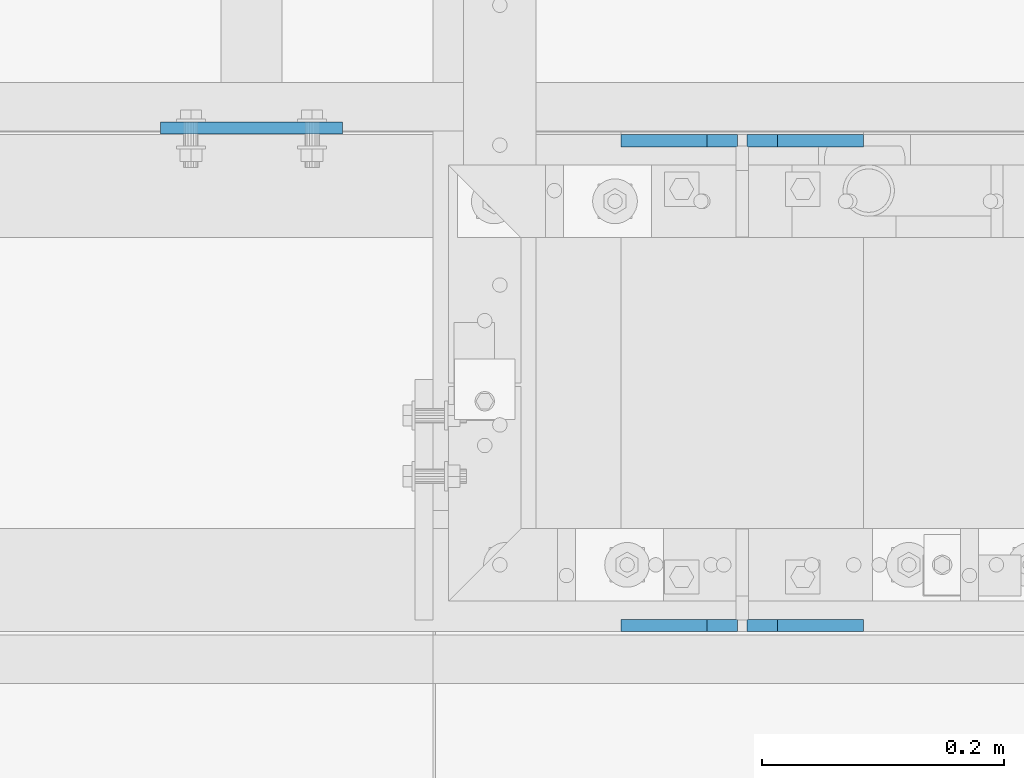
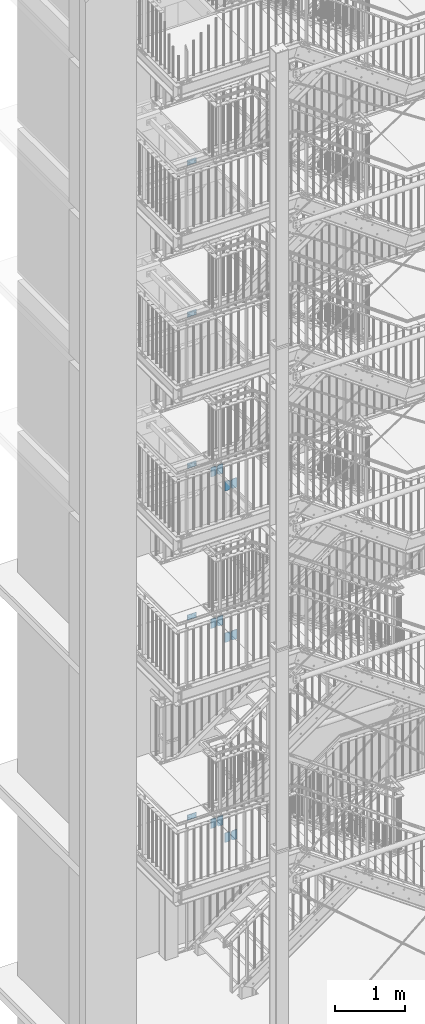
# One storey, part 162 of 831: 17 plates, 44 openings.
"""IFC2X3 building model written with IfcOpenShell, lengths in millimetres."""

from ifc_helpers import new_model, entity, si_unit, converted_unit, frame, frame_2d, origin, origin_with_axes, origin_2d_with_axis, place, context, project, spatial, polyline, circle, outline, extrude, material, layer, layer_set, element, save


model = new_model("IFC2X3")

# Units and contexts
model_context = context("Model", 3, precision=1e-09, world=origin_with_axes())
ifc_project = project(units=[si_unit("LENGTHUNIT", "METRE", prefix="MILLI"), si_unit("AREAUNIT", "SQUARE_METRE"), si_unit("VOLUMEUNIT", "CUBIC_METRE"), converted_unit("PLANEANGLEUNIT", "DEGREE", entity("IfcPlaneAngleMeasure", 0.01745329), si_unit("PLANEANGLEUNIT", "RADIAN"), dimensions=[0, 0, 0, 0, 0, 0, 0])], contexts=[model_context])

# Site, building, storey
site_placement = place(None, origin_with_axes())
site = spatial("IfcSite", under=ifc_project, at=site_placement, Name="Site", CompositionType="ELEMENT")
building_placement = place(site_placement, origin_with_axes())
building = spatial("IfcBuilding", under=site, at=building_placement, Name="Struktur 1", CompositionType="ELEMENT")
storey_placement = place(building_placement, origin_with_axes())
storey = spatial("IfcBuildingStorey", under=building, at=storey_placement, Name="Default Storey", CompositionType="ELEMENT", Elevation=0.0)

# Plate, openings
ifc_material = material(Name="S235JR")
ifc_layer = layer(ifc_material, 10.0)
ifc_layer_set = layer_set([ifc_layer], Name="S235JR")
plate_1_placement = place(None, frame((4852.713402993, 6136.736971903, 3428.5), z_axis=(0.0, 1.0, 0.0), x_axis=(-1.0, 0.0, 0.0)))
plate_1 = element("IfcPlate", 1, at=plate_1_placement, inside=storey, material=ifc_layer_set, Name="Stiffener#1", ObjectType="Stiffener#1", context=model_context, shape_type="SweptSolid", body=[
    extrude(outline(polyline([(0.0, 0.0), (96.0, 0.0), (96.0, 167.0), (0.0, 167.0), (0.0, 0.0)])), origin_with_axes(), (0.0, 0.0, 1.0), 10.0),
])
opening_1_placement = place(plate_1_placement, frame((0.0, 0.0, -0.01), z_axis=(0.0, 0.0, 1.0), x_axis=(1.0, 0.0, 0.0)))
element("IfcOpeningElement", 2, at=opening_1_placement, cuts=plate_1, ObjectType="Opening", context=model_context, shape_type="SweptSolid", body=[
    extrude(outline(polyline([(0.0, 167.0), (0.0, 142.0), (25.0, 167.0), (0.0, 167.0)])), origin(), (0.0, 0.0, 1.0), 10.02),
])
opening_2_placement = place(plate_1_placement, frame((0.0, 0.0, -0.01), z_axis=(0.0, 0.0, 1.0), x_axis=(1.0, 0.0, 0.0)))
element("IfcOpeningElement", 3, at=opening_2_placement, cuts=plate_1, ObjectType="Opening", context=model_context, shape_type="SweptSolid", body=[
    extrude(outline(polyline([(0.0, 0.0), (25.0, 0.0), (0.0, 25.0), (0.0, 0.0)])), origin(), (0.0, 0.0, 1.0), 10.02),
])

plate_2_placement = place(None, frame((4956.713402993, 6136.736971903, 3428.5), z_axis=(0.0, 1.0, 0.0), x_axis=(-1.0, 0.0, 0.0)))
plate_2 = element("IfcPlate", 4, at=plate_2_placement, inside=storey, material=ifc_layer_set, Name="Stiffener#0", ObjectType="Stiffener#0", context=model_context, shape_type="SweptSolid", body=[
    extrude(outline(polyline([(0.0, 0.0), (96.0, 0.0), (96.0, 167.0), (0.0, 167.0), (0.0, 0.0)])), origin_with_axes(), (0.0, 0.0, 1.0), 10.0),
])
opening_3_placement = place(plate_2_placement, frame((0.0, 0.0, -0.01), z_axis=(0.0, 0.0, 1.0), x_axis=(1.0, 0.0, 0.0)))
element("IfcOpeningElement", 5, at=opening_3_placement, cuts=plate_2, ObjectType="Opening", context=model_context, shape_type="SweptSolid", body=[
    extrude(outline(polyline([(96.0, 167.0), (71.0, 167.0), (96.0, 142.0), (96.0, 167.0)])), origin(), (0.0, 0.0, 1.0), 10.02),
])
opening_4_placement = place(plate_2_placement, frame((0.0, 0.0, -0.01), z_axis=(0.0, 0.0, 1.0), x_axis=(1.0, 0.0, 0.0)))
element("IfcOpeningElement", 6, at=opening_4_placement, cuts=plate_2, ObjectType="Opening", context=model_context, shape_type="SweptSolid", body=[
    extrude(outline(polyline([(96.0, 0.0), (96.0, 25.0), (71.0, 0.0), (96.0, 0.0)])), origin(), (0.0, 0.0, 1.0), 10.02),
])

plate_3_placement = place(None, frame((4852.713402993, 5736.736971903, 3428.5), z_axis=(0.0, 1.0, 0.0), x_axis=(-1.0, 0.0, 0.0)))
plate_3 = element("IfcPlate", 7, at=plate_3_placement, inside=storey, material=ifc_layer_set, Name="Stiffener#1", ObjectType="Stiffener#1", context=model_context, shape_type="SweptSolid", body=[
    extrude(outline(polyline([(0.0, 0.0), (96.0, 0.0), (96.0, 167.0), (0.0, 167.0), (0.0, 0.0)])), origin_with_axes(), (0.0, 0.0, 1.0), 10.0),
])
opening_5_placement = place(plate_3_placement, frame((0.0, 0.0, -0.01), z_axis=(0.0, 0.0, 1.0), x_axis=(1.0, 0.0, 0.0)))
element("IfcOpeningElement", 8, at=opening_5_placement, cuts=plate_3, ObjectType="Opening", context=model_context, shape_type="SweptSolid", body=[
    extrude(outline(polyline([(0.0, 167.0), (0.0, 142.0), (25.0, 167.0), (0.0, 167.0)])), origin(), (0.0, 0.0, 1.0), 10.02),
])
opening_6_placement = place(plate_3_placement, frame((0.0, 0.0, -0.01), z_axis=(0.0, 0.0, 1.0), x_axis=(1.0, 0.0, 0.0)))
element("IfcOpeningElement", 9, at=opening_6_placement, cuts=plate_3, ObjectType="Opening", context=model_context, shape_type="SweptSolid", body=[
    extrude(outline(polyline([(0.0, 0.0), (25.0, 0.0), (0.0, 25.0), (0.0, 0.0)])), origin(), (0.0, 0.0, 1.0), 10.02),
])

plate_4_placement = place(None, frame((4956.713402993, 5736.736971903, 3428.5), z_axis=(0.0, 1.0, 0.0), x_axis=(-1.0, 0.0, 0.0)))
plate_4 = element("IfcPlate", 10, at=plate_4_placement, inside=storey, material=ifc_layer_set, Name="Stiffener#0", ObjectType="Stiffener#0", context=model_context, shape_type="SweptSolid", body=[
    extrude(outline(polyline([(0.0, 0.0), (96.0, 0.0), (96.0, 167.0), (0.0, 167.0), (0.0, 0.0)])), origin_with_axes(), (0.0, 0.0, 1.0), 10.0),
])
opening_7_placement = place(plate_4_placement, frame((0.0, 0.0, -0.01), z_axis=(0.0, 0.0, 1.0), x_axis=(1.0, 0.0, 0.0)))
element("IfcOpeningElement", 11, at=opening_7_placement, cuts=plate_4, ObjectType="Opening", context=model_context, shape_type="SweptSolid", body=[
    extrude(outline(polyline([(96.0, 167.0), (71.0, 167.0), (96.0, 142.0), (96.0, 167.0)])), origin(), (0.0, 0.0, 1.0), 10.02),
])
opening_8_placement = place(plate_4_placement, frame((0.0, 0.0, -0.01), z_axis=(0.0, 0.0, 1.0), x_axis=(1.0, 0.0, 0.0)))
element("IfcOpeningElement", 12, at=opening_8_placement, cuts=plate_4, ObjectType="Opening", context=model_context, shape_type="SweptSolid", body=[
    extrude(outline(polyline([(96.0, 0.0), (96.0, 25.0), (71.0, 0.0), (96.0, 0.0)])), origin(), (0.0, 0.0, 1.0), 10.02),
])

plate_5_placement = place(None, frame((4852.713402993, 6136.736971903, 6901.5), z_axis=(0.0, 1.0, 0.0), x_axis=(-1.0, 0.0, 0.0)))
plate_5 = element("IfcPlate", 13, at=plate_5_placement, inside=storey, material=ifc_layer_set, Name="Stiffener#1", ObjectType="Stiffener#1", context=model_context, shape_type="SweptSolid", body=[
    extrude(outline(polyline([(0.0, 0.0), (96.0, 0.0), (96.0, 167.0), (0.0, 167.0), (0.0, 0.0)])), origin_with_axes(), (0.0, 0.0, 1.0), 10.0),
])
opening_9_placement = place(plate_5_placement, frame((0.0, 0.0, -0.01), z_axis=(0.0, 0.0, 1.0), x_axis=(1.0, 0.0, 0.0)))
element("IfcOpeningElement", 14, at=opening_9_placement, cuts=plate_5, ObjectType="Opening", context=model_context, shape_type="SweptSolid", body=[
    extrude(outline(polyline([(0.0, 167.0), (0.0, 142.0), (25.0, 167.0), (0.0, 167.0)])), origin(), (0.0, 0.0, 1.0), 10.02),
])
opening_10_placement = place(plate_5_placement, frame((0.0, 0.0, -0.01), z_axis=(0.0, 0.0, 1.0), x_axis=(1.0, 0.0, 0.0)))
element("IfcOpeningElement", 15, at=opening_10_placement, cuts=plate_5, ObjectType="Opening", context=model_context, shape_type="SweptSolid", body=[
    extrude(outline(polyline([(0.0, 0.0), (25.0, 0.0), (0.0, 25.0), (0.0, 0.0)])), origin(), (0.0, 0.0, 1.0), 10.02),
])

plate_6_placement = place(None, frame((4956.713402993, 6136.736971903, 6901.5), z_axis=(0.0, 1.0, 0.0), x_axis=(-1.0, 0.0, 0.0)))
plate_6 = element("IfcPlate", 16, at=plate_6_placement, inside=storey, material=ifc_layer_set, Name="Stiffener#0", ObjectType="Stiffener#0", context=model_context, shape_type="SweptSolid", body=[
    extrude(outline(polyline([(0.0, 0.0), (96.0, 0.0), (96.0, 167.0), (0.0, 167.0), (0.0, 0.0)])), origin_with_axes(), (0.0, 0.0, 1.0), 10.0),
])
opening_11_placement = place(plate_6_placement, frame((0.0, 0.0, -0.01), z_axis=(0.0, 0.0, 1.0), x_axis=(1.0, 0.0, 0.0)))
element("IfcOpeningElement", 17, at=opening_11_placement, cuts=plate_6, ObjectType="Opening", context=model_context, shape_type="SweptSolid", body=[
    extrude(outline(polyline([(96.0, 167.0), (71.0, 167.0), (96.0, 142.0), (96.0, 167.0)])), origin(), (0.0, 0.0, 1.0), 10.02),
])
opening_12_placement = place(plate_6_placement, frame((0.0, 0.0, -0.01), z_axis=(0.0, 0.0, 1.0), x_axis=(1.0, 0.0, 0.0)))
element("IfcOpeningElement", 18, at=opening_12_placement, cuts=plate_6, ObjectType="Opening", context=model_context, shape_type="SweptSolid", body=[
    extrude(outline(polyline([(96.0, 0.0), (96.0, 25.0), (71.0, 0.0), (96.0, 0.0)])), origin(), (0.0, 0.0, 1.0), 10.02),
])

plate_7_placement = place(None, frame((4451.713402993, 6147.236971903, 15114.0), z_axis=(0.0, -1.0, 0.0), x_axis=(1.0, 0.0, 0.0)))
plate_7 = element("IfcPlate", 19, at=plate_7_placement, inside=storey, material=ifc_layer_set, Name="-", ObjectType="-", context=model_context, shape_type="SweptSolid", body=[
    extrude(outline(polyline([(-75.0, -45.0), (75.0, -45.0), (75.0, 45.0), (-75.0, 45.0), (-75.0, -45.0)])), origin_with_axes(), (0.0, 0.0, -1.0), 10.0),
])
opening_13_placement = place(plate_7_placement, frame((-10.5, -33.0, 0.5), z_axis=(0.0, 0.0, -1.0), x_axis=(0.0, 1.0, 0.0)))
element("IfcOpeningElement", 20, at=opening_13_placement, cuts=plate_7, ObjectType="Opening", context=model_context, shape_type="SweptSolid", body=[
    extrude(circle(Radius=6.001, at=origin_2d_with_axis()), origin(), (0.0, 0.0, 1.0), 11.0),
])
opening_14_placement = place(plate_7_placement, frame((-10.5, 33.0, 0.5), z_axis=(0.0, 0.0, -1.0), x_axis=(0.0, 1.0, 0.0)))
element("IfcOpeningElement", 21, at=opening_14_placement, cuts=plate_7, ObjectType="Opening", context=model_context, shape_type="SweptSolid", body=[
    extrude(circle(Radius=6.001, at=origin_2d_with_axis()), origin(), (0.0, 0.0, 1.0), 11.0),
])
opening_15_placement = place(plate_7_placement, frame((42.999, 0.0, 0.5), z_axis=(0.0, 0.0, 1.0), x_axis=(1.0, 0.0, 0.0)))
element("IfcOpeningElement", 22, at=opening_15_placement, cuts=plate_7, ObjectType="Opening", context=model_context, shape_type="SweptSolid", body=[
    extrude(circle(Radius=7.001, at=frame_2d((7.001, 0.0), x_axis=(1.0, 0.0))), origin(), (0.0, 0.0, -1.0), 11.0),
])
opening_16_placement = place(plate_7_placement, frame((-57.001, 0.0, 0.5), z_axis=(0.0, 0.0, 1.0), x_axis=(1.0, 0.0, 0.0)))
element("IfcOpeningElement", 23, at=opening_16_placement, cuts=plate_7, ObjectType="Opening", context=model_context, shape_type="SweptSolid", body=[
    extrude(circle(Radius=7.001, at=frame_2d((7.001, 0.0), x_axis=(1.0, 0.0))), origin(), (0.0, 0.0, -1.0), 11.0),
])

plate_8_placement = place(None, frame((4451.713402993, 6147.236971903, 12479.0), z_axis=(0.0, -1.0, 0.0), x_axis=(1.0, 0.0, 0.0)))
plate_8 = element("IfcPlate", 24, at=plate_8_placement, inside=storey, material=ifc_layer_set, Name="-", ObjectType="-", context=model_context, shape_type="SweptSolid", body=[
    extrude(outline(polyline([(-75.0, -45.0), (75.0, -45.0), (75.0, 45.0), (-75.0, 45.0), (-75.0, -45.0)])), origin_with_axes(), (0.0, 0.0, -1.0), 10.0),
])
opening_17_placement = place(plate_8_placement, frame((-10.5, -33.0, 0.5), z_axis=(0.0, 0.0, -1.0), x_axis=(0.0, 1.0, 0.0)))
element("IfcOpeningElement", 25, at=opening_17_placement, cuts=plate_8, ObjectType="Opening", context=model_context, shape_type="SweptSolid", body=[
    extrude(circle(Radius=6.001, at=origin_2d_with_axis()), origin(), (0.0, 0.0, 1.0), 11.0),
])
opening_18_placement = place(plate_8_placement, frame((-10.5, 33.0, 0.5), z_axis=(0.0, 0.0, -1.0), x_axis=(0.0, 1.0, 0.0)))
element("IfcOpeningElement", 26, at=opening_18_placement, cuts=plate_8, ObjectType="Opening", context=model_context, shape_type="SweptSolid", body=[
    extrude(circle(Radius=6.001, at=origin_2d_with_axis()), origin(), (0.0, 0.0, 1.0), 11.0),
])
opening_19_placement = place(plate_8_placement, frame((42.999, 0.0, 0.5), z_axis=(0.0, 0.0, 1.0), x_axis=(1.0, 0.0, 0.0)))
element("IfcOpeningElement", 27, at=opening_19_placement, cuts=plate_8, ObjectType="Opening", context=model_context, shape_type="SweptSolid", body=[
    extrude(circle(Radius=7.001, at=frame_2d((7.001, 0.0), x_axis=(1.0, 0.0))), origin(), (0.0, 0.0, -1.0), 11.0),
])
opening_20_placement = place(plate_8_placement, frame((-57.001, 0.0, 0.5), z_axis=(0.0, 0.0, 1.0), x_axis=(1.0, 0.0, 0.0)))
element("IfcOpeningElement", 28, at=opening_20_placement, cuts=plate_8, ObjectType="Opening", context=model_context, shape_type="SweptSolid", body=[
    extrude(circle(Radius=7.001, at=frame_2d((7.001, 0.0), x_axis=(1.0, 0.0))), origin(), (0.0, 0.0, -1.0), 11.0),
])

plate_9_placement = place(None, frame((4451.713402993, 6147.236971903, 9852.0), z_axis=(0.0, -1.0, 0.0), x_axis=(1.0, 0.0, 0.0)))
plate_9 = element("IfcPlate", 29, at=plate_9_placement, inside=storey, material=ifc_layer_set, Name="-", ObjectType="-", context=model_context, shape_type="SweptSolid", body=[
    extrude(outline(polyline([(-75.0, -45.0), (75.0, -45.0), (75.0, 45.0), (-75.0, 45.0), (-75.0, -45.0)])), origin_with_axes(), (0.0, 0.0, -1.0), 10.0),
])
opening_21_placement = place(plate_9_placement, frame((-10.5, -33.0, 0.5), z_axis=(0.0, 0.0, -1.0), x_axis=(0.0, 1.0, 0.0)))
element("IfcOpeningElement", 30, at=opening_21_placement, cuts=plate_9, ObjectType="Opening", context=model_context, shape_type="SweptSolid", body=[
    extrude(circle(Radius=6.001, at=origin_2d_with_axis()), origin(), (0.0, 0.0, 1.0), 11.0),
])
opening_22_placement = place(plate_9_placement, frame((-10.5, 33.0, 0.5), z_axis=(0.0, 0.0, -1.0), x_axis=(0.0, 1.0, 0.0)))
element("IfcOpeningElement", 31, at=opening_22_placement, cuts=plate_9, ObjectType="Opening", context=model_context, shape_type="SweptSolid", body=[
    extrude(circle(Radius=6.001, at=origin_2d_with_axis()), origin(), (0.0, 0.0, 1.0), 11.0),
])
opening_23_placement = place(plate_9_placement, frame((42.999, 0.0, 0.5), z_axis=(0.0, 0.0, 1.0), x_axis=(1.0, 0.0, 0.0)))
element("IfcOpeningElement", 32, at=opening_23_placement, cuts=plate_9, ObjectType="Opening", context=model_context, shape_type="SweptSolid", body=[
    extrude(circle(Radius=7.001, at=frame_2d((7.001, 0.0), x_axis=(1.0, 0.0))), origin(), (0.0, 0.0, -1.0), 11.0),
])
opening_24_placement = place(plate_9_placement, frame((-57.001, 0.0, 0.5), z_axis=(0.0, 0.0, 1.0), x_axis=(1.0, 0.0, 0.0)))
element("IfcOpeningElement", 33, at=opening_24_placement, cuts=plate_9, ObjectType="Opening", context=model_context, shape_type="SweptSolid", body=[
    extrude(circle(Radius=7.001, at=frame_2d((7.001, 0.0), x_axis=(1.0, 0.0))), origin(), (0.0, 0.0, -1.0), 11.0),
])

plate_10_placement = place(None, frame((4451.713402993, 6147.236971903, 7220.0), z_axis=(0.0, -1.0, 0.0), x_axis=(1.0, 0.0, 0.0)))
plate_10 = element("IfcPlate", 34, at=plate_10_placement, inside=storey, material=ifc_layer_set, Name="-", ObjectType="-", context=model_context, shape_type="SweptSolid", body=[
    extrude(outline(polyline([(-75.0, -45.0), (75.0, -45.0), (75.0, 45.0), (-75.0, 45.0), (-75.0, -45.0)])), origin_with_axes(), (0.0, 0.0, -1.0), 10.0),
])
opening_25_placement = place(plate_10_placement, frame((-10.5, -33.0, 0.5), z_axis=(0.0, 0.0, -1.0), x_axis=(0.0, 1.0, 0.0)))
element("IfcOpeningElement", 35, at=opening_25_placement, cuts=plate_10, ObjectType="Opening", context=model_context, shape_type="SweptSolid", body=[
    extrude(circle(Radius=6.001, at=origin_2d_with_axis()), origin(), (0.0, 0.0, 1.0), 11.0),
])
opening_26_placement = place(plate_10_placement, frame((-10.5, 33.0, 0.5), z_axis=(0.0, 0.0, -1.0), x_axis=(0.0, 1.0, 0.0)))
element("IfcOpeningElement", 36, at=opening_26_placement, cuts=plate_10, ObjectType="Opening", context=model_context, shape_type="SweptSolid", body=[
    extrude(circle(Radius=6.001, at=origin_2d_with_axis()), origin(), (0.0, 0.0, 1.0), 11.0),
])
opening_27_placement = place(plate_10_placement, frame((42.999, 0.0, 0.5), z_axis=(0.0, 0.0, 1.0), x_axis=(1.0, 0.0, 0.0)))
element("IfcOpeningElement", 37, at=opening_27_placement, cuts=plate_10, ObjectType="Opening", context=model_context, shape_type="SweptSolid", body=[
    extrude(circle(Radius=7.001, at=frame_2d((7.001, 0.0), x_axis=(1.0, 0.0))), origin(), (0.0, 0.0, -1.0), 11.0),
])
opening_28_placement = place(plate_10_placement, frame((-57.001, 0.0, 0.5), z_axis=(0.0, 0.0, 1.0), x_axis=(1.0, 0.0, 0.0)))
element("IfcOpeningElement", 38, at=opening_28_placement, cuts=plate_10, ObjectType="Opening", context=model_context, shape_type="SweptSolid", body=[
    extrude(circle(Radius=7.001, at=frame_2d((7.001, 0.0), x_axis=(1.0, 0.0))), origin(), (0.0, 0.0, -1.0), 11.0),
])

plate_11_placement = place(None, frame((4451.713402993, 6147.236971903, 3747.0), z_axis=(0.0, -1.0, 0.0), x_axis=(1.0, 0.0, 0.0)))
plate_11 = element("IfcPlate", 39, at=plate_11_placement, inside=storey, material=ifc_layer_set, Name="-", ObjectType="-", context=model_context, shape_type="SweptSolid", body=[
    extrude(outline(polyline([(-75.0, -45.0), (75.0, -45.0), (75.0, 45.0), (-75.0, 45.0), (-75.0, -45.0)])), origin_with_axes(), (0.0, 0.0, -1.0), 10.0),
])
opening_29_placement = place(plate_11_placement, frame((-10.5, -33.0, 0.5), z_axis=(0.0, 0.0, -1.0), x_axis=(0.0, 1.0, 0.0)))
element("IfcOpeningElement", 40, at=opening_29_placement, cuts=plate_11, ObjectType="Opening", context=model_context, shape_type="SweptSolid", body=[
    extrude(circle(Radius=6.001, at=origin_2d_with_axis()), origin(), (0.0, 0.0, 1.0), 11.0),
])
opening_30_placement = place(plate_11_placement, frame((-10.5, 33.0, 0.5), z_axis=(0.0, 0.0, -1.0), x_axis=(0.0, 1.0, 0.0)))
element("IfcOpeningElement", 41, at=opening_30_placement, cuts=plate_11, ObjectType="Opening", context=model_context, shape_type="SweptSolid", body=[
    extrude(circle(Radius=6.001, at=origin_2d_with_axis()), origin(), (0.0, 0.0, 1.0), 11.0),
])
opening_31_placement = place(plate_11_placement, frame((42.999, 0.0, 0.5), z_axis=(0.0, 0.0, 1.0), x_axis=(1.0, 0.0, 0.0)))
element("IfcOpeningElement", 42, at=opening_31_placement, cuts=plate_11, ObjectType="Opening", context=model_context, shape_type="SweptSolid", body=[
    extrude(circle(Radius=7.001, at=frame_2d((7.001, 0.0), x_axis=(1.0, 0.0))), origin(), (0.0, 0.0, -1.0), 11.0),
])
opening_32_placement = place(plate_11_placement, frame((-57.001, 0.0, 0.5), z_axis=(0.0, 0.0, 1.0), x_axis=(1.0, 0.0, 0.0)))
element("IfcOpeningElement", 43, at=opening_32_placement, cuts=plate_11, ObjectType="Opening", context=model_context, shape_type="SweptSolid", body=[
    extrude(circle(Radius=7.001, at=frame_2d((7.001, 0.0), x_axis=(1.0, 0.0))), origin(), (0.0, 0.0, -1.0), 11.0),
])

plate_12_placement = place(None, frame((4852.713402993, 5736.736971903, 6901.5), z_axis=(0.0, 1.0, 0.0), x_axis=(-1.0, 0.0, 0.0)))
plate_12 = element("IfcPlate", 44, at=plate_12_placement, inside=storey, material=ifc_layer_set, Name="Stiffener#1", ObjectType="Stiffener#1", context=model_context, shape_type="SweptSolid", body=[
    extrude(outline(polyline([(0.0, 0.0), (96.0, 0.0), (96.0, 167.0), (0.0, 167.0), (0.0, 0.0)])), origin_with_axes(), (0.0, 0.0, 1.0), 10.0),
])
opening_33_placement = place(plate_12_placement, frame((0.0, 0.0, -0.01), z_axis=(0.0, 0.0, 1.0), x_axis=(1.0, 0.0, 0.0)))
element("IfcOpeningElement", 45, at=opening_33_placement, cuts=plate_12, ObjectType="Opening", context=model_context, shape_type="SweptSolid", body=[
    extrude(outline(polyline([(0.0, 167.0), (0.0, 142.0), (25.0, 167.0), (0.0, 167.0)])), origin(), (0.0, 0.0, 1.0), 10.02),
])
opening_34_placement = place(plate_12_placement, frame((0.0, 0.0, -0.01), z_axis=(0.0, 0.0, 1.0), x_axis=(1.0, 0.0, 0.0)))
element("IfcOpeningElement", 46, at=opening_34_placement, cuts=plate_12, ObjectType="Opening", context=model_context, shape_type="SweptSolid", body=[
    extrude(outline(polyline([(0.0, 0.0), (25.0, 0.0), (0.0, 25.0), (0.0, 0.0)])), origin(), (0.0, 0.0, 1.0), 10.02),
])

plate_13_placement = place(None, frame((4956.713402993, 5736.736971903, 6901.5), z_axis=(0.0, 1.0, 0.0), x_axis=(-1.0, 0.0, 0.0)))
plate_13 = element("IfcPlate", 47, at=plate_13_placement, inside=storey, material=ifc_layer_set, Name="Stiffener#0", ObjectType="Stiffener#0", context=model_context, shape_type="SweptSolid", body=[
    extrude(outline(polyline([(0.0, 0.0), (96.0, 0.0), (96.0, 167.0), (0.0, 167.0), (0.0, 0.0)])), origin_with_axes(), (0.0, 0.0, 1.0), 10.0),
])
opening_35_placement = place(plate_13_placement, frame((0.0, 0.0, -0.01), z_axis=(0.0, 0.0, 1.0), x_axis=(1.0, 0.0, 0.0)))
element("IfcOpeningElement", 48, at=opening_35_placement, cuts=plate_13, ObjectType="Opening", context=model_context, shape_type="SweptSolid", body=[
    extrude(outline(polyline([(96.0, 167.0), (71.0, 167.0), (96.0, 142.0), (96.0, 167.0)])), origin(), (0.0, 0.0, 1.0), 10.02),
])
opening_36_placement = place(plate_13_placement, frame((0.0, 0.0, -0.01), z_axis=(0.0, 0.0, 1.0), x_axis=(1.0, 0.0, 0.0)))
element("IfcOpeningElement", 49, at=opening_36_placement, cuts=plate_13, ObjectType="Opening", context=model_context, shape_type="SweptSolid", body=[
    extrude(outline(polyline([(96.0, 0.0), (96.0, 25.0), (71.0, 0.0), (96.0, 0.0)])), origin(), (0.0, 0.0, 1.0), 10.02),
])

plate_14_placement = place(None, frame((4852.713402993, 6136.736971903, 9533.5), z_axis=(0.0, 1.0, 0.0), x_axis=(-1.0, 0.0, 0.0)))
plate_14 = element("IfcPlate", 50, at=plate_14_placement, inside=storey, material=ifc_layer_set, Name="Stiffener#1", ObjectType="Stiffener#1", context=model_context, shape_type="SweptSolid", body=[
    extrude(outline(polyline([(0.0, 0.0), (96.0, 0.0), (96.0, 167.0), (0.0, 167.0), (0.0, 0.0)])), origin_with_axes(), (0.0, 0.0, 1.0), 10.0),
])
opening_37_placement = place(plate_14_placement, frame((0.0, 0.0, -0.01), z_axis=(0.0, 0.0, 1.0), x_axis=(1.0, 0.0, 0.0)))
element("IfcOpeningElement", 51, at=opening_37_placement, cuts=plate_14, ObjectType="Opening", context=model_context, shape_type="SweptSolid", body=[
    extrude(outline(polyline([(0.0, 167.0), (0.0, 142.0), (25.0, 167.0), (0.0, 167.0)])), origin(), (0.0, 0.0, 1.0), 10.02),
])
opening_38_placement = place(plate_14_placement, frame((0.0, 0.0, -0.01), z_axis=(0.0, 0.0, 1.0), x_axis=(1.0, 0.0, 0.0)))
element("IfcOpeningElement", 52, at=opening_38_placement, cuts=plate_14, ObjectType="Opening", context=model_context, shape_type="SweptSolid", body=[
    extrude(outline(polyline([(0.0, 0.0), (25.0, 0.0), (0.0, 25.0), (0.0, 0.0)])), origin(), (0.0, 0.0, 1.0), 10.02),
])

plate_15_placement = place(None, frame((4956.713402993, 6136.736971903, 9533.5), z_axis=(0.0, 1.0, 0.0), x_axis=(-1.0, 0.0, 0.0)))
plate_15 = element("IfcPlate", 53, at=plate_15_placement, inside=storey, material=ifc_layer_set, Name="Stiffener#0", ObjectType="Stiffener#0", context=model_context, shape_type="SweptSolid", body=[
    extrude(outline(polyline([(0.0, 0.0), (96.0, 0.0), (96.0, 167.0), (0.0, 167.0), (0.0, 0.0)])), origin_with_axes(), (0.0, 0.0, 1.0), 10.0),
])
opening_39_placement = place(plate_15_placement, frame((0.0, 0.0, -0.01), z_axis=(0.0, 0.0, 1.0), x_axis=(1.0, 0.0, 0.0)))
element("IfcOpeningElement", 54, at=opening_39_placement, cuts=plate_15, ObjectType="Opening", context=model_context, shape_type="SweptSolid", body=[
    extrude(outline(polyline([(96.0, 167.0), (71.0, 167.0), (96.0, 142.0), (96.0, 167.0)])), origin(), (0.0, 0.0, 1.0), 10.02),
])
opening_40_placement = place(plate_15_placement, frame((0.0, 0.0, -0.01), z_axis=(0.0, 0.0, 1.0), x_axis=(1.0, 0.0, 0.0)))
element("IfcOpeningElement", 55, at=opening_40_placement, cuts=plate_15, ObjectType="Opening", context=model_context, shape_type="SweptSolid", body=[
    extrude(outline(polyline([(96.0, 0.0), (96.0, 25.0), (71.0, 0.0), (96.0, 0.0)])), origin(), (0.0, 0.0, 1.0), 10.02),
])

plate_16_placement = place(None, frame((4852.713402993, 5736.736971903, 9533.5), z_axis=(0.0, 1.0, 0.0), x_axis=(-1.0, 0.0, 0.0)))
plate_16 = element("IfcPlate", 56, at=plate_16_placement, inside=storey, material=ifc_layer_set, Name="Stiffener#1", ObjectType="Stiffener#1", context=model_context, shape_type="SweptSolid", body=[
    extrude(outline(polyline([(0.0, 0.0), (96.0, 0.0), (96.0, 167.0), (0.0, 167.0), (0.0, 0.0)])), origin_with_axes(), (0.0, 0.0, 1.0), 10.0),
])
opening_41_placement = place(plate_16_placement, frame((0.0, 0.0, -0.01), z_axis=(0.0, 0.0, 1.0), x_axis=(1.0, 0.0, 0.0)))
element("IfcOpeningElement", 57, at=opening_41_placement, cuts=plate_16, ObjectType="Opening", context=model_context, shape_type="SweptSolid", body=[
    extrude(outline(polyline([(0.0, 167.0), (0.0, 142.0), (25.0, 167.0), (0.0, 167.0)])), origin(), (0.0, 0.0, 1.0), 10.02),
])
opening_42_placement = place(plate_16_placement, frame((0.0, 0.0, -0.01), z_axis=(0.0, 0.0, 1.0), x_axis=(1.0, 0.0, 0.0)))
element("IfcOpeningElement", 58, at=opening_42_placement, cuts=plate_16, ObjectType="Opening", context=model_context, shape_type="SweptSolid", body=[
    extrude(outline(polyline([(0.0, 0.0), (25.0, 0.0), (0.0, 25.0), (0.0, 0.0)])), origin(), (0.0, 0.0, 1.0), 10.02),
])

plate_17_placement = place(None, frame((4956.713402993, 5736.736971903, 9533.5), z_axis=(0.0, 1.0, 0.0), x_axis=(-1.0, 0.0, 0.0)))
plate_17 = element("IfcPlate", 59, at=plate_17_placement, inside=storey, material=ifc_layer_set, Name="Stiffener#0", ObjectType="Stiffener#0", context=model_context, shape_type="SweptSolid", body=[
    extrude(outline(polyline([(0.0, 0.0), (96.0, 0.0), (96.0, 167.0), (0.0, 167.0), (0.0, 0.0)])), origin_with_axes(), (0.0, 0.0, 1.0), 10.0),
])
opening_43_placement = place(plate_17_placement, frame((0.0, 0.0, -0.01), z_axis=(0.0, 0.0, 1.0), x_axis=(1.0, 0.0, 0.0)))
element("IfcOpeningElement", 60, at=opening_43_placement, cuts=plate_17, ObjectType="Opening", context=model_context, shape_type="SweptSolid", body=[
    extrude(outline(polyline([(96.0, 167.0), (71.0, 167.0), (96.0, 142.0), (96.0, 167.0)])), origin(), (0.0, 0.0, 1.0), 10.02),
])
opening_44_placement = place(plate_17_placement, frame((0.0, 0.0, -0.01), z_axis=(0.0, 0.0, 1.0), x_axis=(1.0, 0.0, 0.0)))
element("IfcOpeningElement", 61, at=opening_44_placement, cuts=plate_17, ObjectType="Opening", context=model_context, shape_type="SweptSolid", body=[
    extrude(outline(polyline([(96.0, 0.0), (96.0, 25.0), (71.0, 0.0), (96.0, 0.0)])), origin(), (0.0, 0.0, 1.0), 10.02),
])

save(model, "model.ifc")
